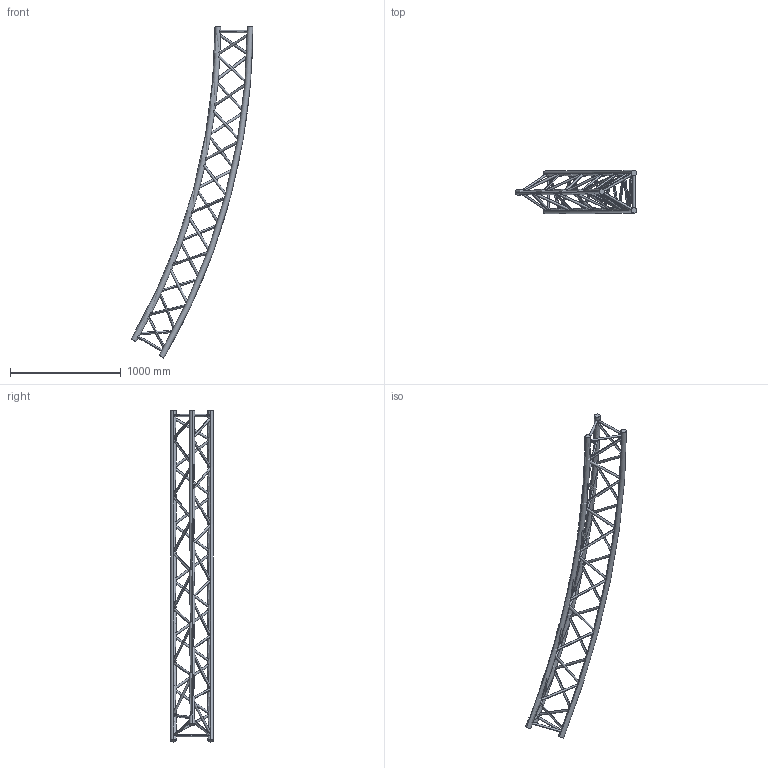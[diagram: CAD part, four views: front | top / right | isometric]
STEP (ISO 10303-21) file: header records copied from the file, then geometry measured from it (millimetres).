
FILE_DESCRIPTION (( 'STEP AP203' ), '1' );
FILE_NAME ('SXC391200PI.STEP', '2009-10-21T11:33:54', ( 'CEDIA' ), ( 'CEDIA INDUSTRIE' ), 'SwSTEP 2.0', 'SolidWorks 2009', '' );
FILE_SCHEMA (( 'CONFIG_CONTROL_DESIGN' ));
Length unit declared in the file: millimetre
Products named in the file (1): SXC391200PI
Bounding box: 1099.9 x 387 x 3000 mm (x, y, z)
Volume: 22669058.2 mm3; surface area: 2341521 mm2
Topology: 1 solids, 1 shells, 96 faces, 270 edges, 180 vertices
Faces by surface type: cylinder 84, torus 6, plane 6
Entity records: 11220 total; most frequent: CARTESIAN_POINT 8814, ORIENTED_EDGE 540, DIRECTION 314, EDGE_CURVE 270, EDGE_LOOP 180, VERTEX_POINT 180, B_SPLINE_CURVE_WITH_KNOTS 168, AXIS2_PLACEMENT_3D 115
